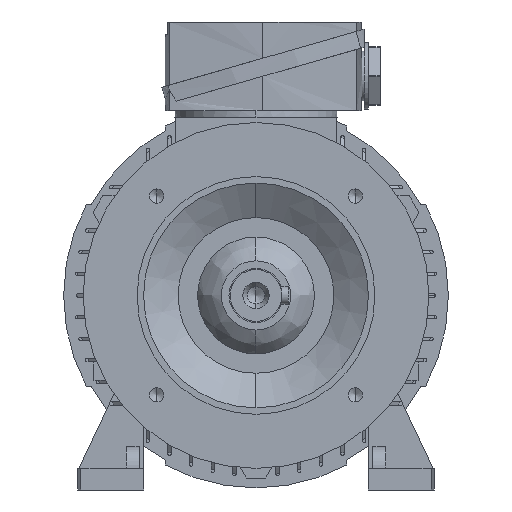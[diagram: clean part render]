
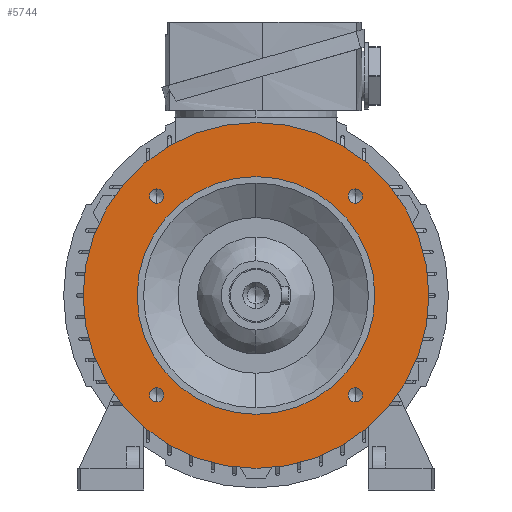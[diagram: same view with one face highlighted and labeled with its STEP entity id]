
A CAD part, left-side view. The second image highlights one B-rep face of the part: STEP entity #5744.
In plain terms, the highlighted planar face has unit normal (-1, 0, 0).
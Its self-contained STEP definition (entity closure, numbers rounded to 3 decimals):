
#158 = EDGE_CURVE ( 'NONE', #4018, #12202, #525, .T. ) ;
#299 = CARTESIAN_POINT ( 'NONE',  ( -34.5, 0., 0. ) ) ;
#416 = CIRCLE ( 'NONE', #17458, 55. ) ;
#525 = CIRCLE ( 'NONE', #16026, 3.325 ) ;
#851 = CIRCLE ( 'NONE', #1062, 3.325 ) ;
#1062 = AXIS2_PLACEMENT_3D ( 'NONE', #4175, #17286, #6038 ) ;
#1452 = EDGE_LOOP ( 'NONE', ( #12069, #17181 ) ) ;
#1572 = CIRCLE ( 'NONE', #10419, 3.325 ) ;
#1756 = CIRCLE ( 'NONE', #6596, 3.325 ) ;
#1910 = EDGE_CURVE ( 'NONE', #5872, #19605, #21141, .T. ) ;
#2111 = CIRCLE ( 'NONE', #23293, 3.325 ) ;
#2133 = EDGE_CURVE ( 'NONE', #21278, #4658, #20066, .T. ) ;
#2252 = DIRECTION ( 'NONE',  ( 0., 0., 1. ) ) ;
#2617 = DIRECTION ( 'NONE',  ( -1., 0., 0. ) ) ;
#2779 = CIRCLE ( 'NONE', #20328, 80. ) ;
#3041 = CARTESIAN_POINT ( 'NONE',  ( -34.5, 45.962, -49.287 ) ) ;
#3049 = AXIS2_PLACEMENT_3D ( 'NONE', #9927, #4441, #8315 ) ;
#3378 = DIRECTION ( 'NONE',  ( 0., 0., 1. ) ) ;
#3385 = DIRECTION ( 'NONE',  ( 1., 0., 0. ) ) ;
#3406 = CARTESIAN_POINT ( 'NONE',  ( -34.5, 0., 0. ) ) ;
#3415 = EDGE_CURVE ( 'NONE', #8403, #13413, #14691, .T. ) ;
#3504 = CARTESIAN_POINT ( 'NONE',  ( -34.5, 0., 80. ) ) ;
#3882 = ORIENTED_EDGE ( 'NONE', *, *, #22216, .T. ) ;
#3954 = FACE_BOUND ( 'NONE', #4211, .T. ) ;
#3956 = FACE_BOUND ( 'NONE', #12075, .T. ) ;
#3975 = FACE_BOUND ( 'NONE', #21677, .T. ) ;
#4018 = VERTEX_POINT ( 'NONE', #13525 ) ;
#4019 = FACE_OUTER_BOUND ( 'NONE', #11516, .T. ) ;
#4071 = FACE_BOUND ( 'NONE', #10507, .T. ) ;
#4135 = EDGE_CURVE ( 'NONE', #14442, #12062, #11276, .T. ) ;
#4175 = CARTESIAN_POINT ( 'NONE',  ( -34.5, 45.962, 45.962 ) ) ;
#4211 = EDGE_LOOP ( 'NONE', ( #11950, #9720 ) ) ;
#4228 = FACE_BOUND ( 'NONE', #1452, .T. ) ;
#4441 = DIRECTION ( 'NONE',  ( 1., 0., 0. ) ) ;
#4658 = VERTEX_POINT ( 'NONE', #9594 ) ;
#4736 = CARTESIAN_POINT ( 'NONE',  ( -34.5, 0., 0. ) ) ;
#5238 = CARTESIAN_POINT ( 'NONE',  ( -34.5, -45.962, -45.962 ) ) ;
#5744 = ADVANCED_FACE ( 'NONE', ( #4228, #4019, #4071, #3956, #3975, #3954 ), #23078, .T. ) ;
#5872 = VERTEX_POINT ( 'NONE', #19883 ) ;
#6038 = DIRECTION ( 'NONE',  ( 0., 0., -1. ) ) ;
#6048 = EDGE_CURVE ( 'NONE', #19058, #21212, #2779, .T. ) ;
#6163 = DIRECTION ( 'NONE',  ( 1., 0., 0. ) ) ;
#6596 = AXIS2_PLACEMENT_3D ( 'NONE', #5238, #18327, #7119 ) ;
#6605 = DIRECTION ( 'NONE',  ( 0., 0., 1. ) ) ;
#7119 = DIRECTION ( 'NONE',  ( 0., 0., -1. ) ) ;
#7222 = DIRECTION ( 'NONE',  ( 0., 0., -1. ) ) ;
#8315 = DIRECTION ( 'NONE',  ( 0., 0., -1. ) ) ;
#8392 = AXIS2_PLACEMENT_3D ( 'NONE', #20976, #20996, #21055 ) ;
#8403 = VERTEX_POINT ( 'NONE', #19523 ) ;
#8622 = ORIENTED_EDGE ( 'NONE', *, *, #6048, .F. ) ;
#9594 = CARTESIAN_POINT ( 'NONE',  ( -34.5, -45.962, -49.287 ) ) ;
#9720 = ORIENTED_EDGE ( 'NONE', *, *, #158, .T. ) ;
#9927 = CARTESIAN_POINT ( 'NONE',  ( -34.5, 45.962, 45.962 ) ) ;
#10374 = DIRECTION ( 'NONE',  ( 1., 0., 0. ) ) ;
#10419 = AXIS2_PLACEMENT_3D ( 'NONE', #22155, #11021, #23984 ) ;
#10507 = EDGE_LOOP ( 'NONE', ( #23924, #18523 ) ) ;
#11021 = DIRECTION ( 'NONE',  ( 1., 0., 0. ) ) ;
#11269 = AXIS2_PLACEMENT_3D ( 'NONE', #17409, #6163, #19265 ) ;
#11276 = CIRCLE ( 'NONE', #3049, 3.325 ) ;
#11373 = ORIENTED_EDGE ( 'NONE', *, *, #2133, .T. ) ;
#11516 = EDGE_LOOP ( 'NONE', ( #17825, #8622 ) ) ;
#11685 = AXIS2_PLACEMENT_3D ( 'NONE', #3406, #3385, #3378 ) ;
#11936 = CARTESIAN_POINT ( 'NONE',  ( -34.5, -45.962, -45.962 ) ) ;
#11950 = ORIENTED_EDGE ( 'NONE', *, *, #22081, .T. ) ;
#12007 = CARTESIAN_POINT ( 'NONE',  ( -34.5, 0., 67.5 ) ) ;
#12062 = VERTEX_POINT ( 'NONE', #23230 ) ;
#12069 = ORIENTED_EDGE ( 'NONE', *, *, #22582, .T. ) ;
#12075 = EDGE_LOOP ( 'NONE', ( #18564, #16646 ) ) ;
#12202 = VERTEX_POINT ( 'NONE', #23548 ) ;
#13413 = VERTEX_POINT ( 'NONE', #18175 ) ;
#13525 = CARTESIAN_POINT ( 'NONE',  ( -34.5, -45.962, 49.287 ) ) ;
#13559 = DIRECTION ( 'NONE',  ( 1., 0., 0. ) ) ;
#13918 = DIRECTION ( 'NONE',  ( 1., 0., 0. ) ) ;
#14052 = CARTESIAN_POINT ( 'NONE',  ( -34.5, -45.962, 45.962 ) ) ;
#14170 = DIRECTION ( 'NONE',  ( 0., 0., -1. ) ) ;
#14442 = VERTEX_POINT ( 'NONE', #20584 ) ;
#14691 = CIRCLE ( 'NONE', #11685, 55. ) ;
#15804 = DIRECTION ( 'NONE',  ( 0., 0., 1. ) ) ;
#16026 = AXIS2_PLACEMENT_3D ( 'NONE', #14052, #13918, #14170 ) ;
#16536 = EDGE_CURVE ( 'NONE', #21212, #19058, #21824, .T. ) ;
#16646 = ORIENTED_EDGE ( 'NONE', *, *, #1910, .T. ) ;
#17181 = ORIENTED_EDGE ( 'NONE', *, *, #3415, .T. ) ;
#17286 = DIRECTION ( 'NONE',  ( 1., 0., 0. ) ) ;
#17409 = CARTESIAN_POINT ( 'NONE',  ( -34.5, 0., 0. ) ) ;
#17458 = AXIS2_PLACEMENT_3D ( 'NONE', #4736, #17821, #6605 ) ;
#17641 = CARTESIAN_POINT ( 'NONE',  ( -34.5, 0., -80. ) ) ;
#17821 = DIRECTION ( 'NONE',  ( 1., 0., 0. ) ) ;
#17825 = ORIENTED_EDGE ( 'NONE', *, *, #16536, .F. ) ;
#18021 = DIRECTION ( 'NONE',  ( 1., 0., 0. ) ) ;
#18175 = CARTESIAN_POINT ( 'NONE',  ( -34.5, 0., 55. ) ) ;
#18260 = AXIS2_PLACEMENT_3D ( 'NONE', #12007, #2617, #15804 ) ;
#18327 = DIRECTION ( 'NONE',  ( 1., 0., 0. ) ) ;
#18523 = ORIENTED_EDGE ( 'NONE', *, *, #4135, .T. ) ;
#18564 = ORIENTED_EDGE ( 'NONE', *, *, #22252, .T. ) ;
#18630 = CARTESIAN_POINT ( 'NONE',  ( -34.5, -45.962, -42.637 ) ) ;
#19058 = VERTEX_POINT ( 'NONE', #17641 ) ;
#19265 = DIRECTION ( 'NONE',  ( 0., 0., 1. ) ) ;
#19523 = CARTESIAN_POINT ( 'NONE',  ( -34.5, 0., -55. ) ) ;
#19605 = VERTEX_POINT ( 'NONE', #3041 ) ;
#19883 = CARTESIAN_POINT ( 'NONE',  ( -34.5, 45.962, -42.637 ) ) ;
#20066 = CIRCLE ( 'NONE', #22163, 3.325 ) ;
#20328 = AXIS2_PLACEMENT_3D ( 'NONE', #299, #13559, #2252 ) ;
#20584 = CARTESIAN_POINT ( 'NONE',  ( -34.5, 45.962, 49.287 ) ) ;
#20976 = CARTESIAN_POINT ( 'NONE',  ( -34.5, 45.962, -45.962 ) ) ;
#20996 = DIRECTION ( 'NONE',  ( 1., 0., 0. ) ) ;
#21055 = DIRECTION ( 'NONE',  ( 0., 0., -1. ) ) ;
#21141 = CIRCLE ( 'NONE', #8392, 3.325 ) ;
#21212 = VERTEX_POINT ( 'NONE', #3504 ) ;
#21278 = VERTEX_POINT ( 'NONE', #18630 ) ;
#21525 = CARTESIAN_POINT ( 'NONE',  ( -34.5, -45.962, 45.962 ) ) ;
#21677 = EDGE_LOOP ( 'NONE', ( #3882, #11373 ) ) ;
#21824 = CIRCLE ( 'NONE', #11269, 80. ) ;
#22081 = EDGE_CURVE ( 'NONE', #12202, #4018, #2111, .T. ) ;
#22155 = CARTESIAN_POINT ( 'NONE',  ( -34.5, 45.962, -45.962 ) ) ;
#22163 = AXIS2_PLACEMENT_3D ( 'NONE', #11936, #18021, #7222 ) ;
#22216 = EDGE_CURVE ( 'NONE', #4658, #21278, #1756, .T. ) ;
#22252 = EDGE_CURVE ( 'NONE', #19605, #5872, #1572, .T. ) ;
#22440 = EDGE_CURVE ( 'NONE', #12062, #14442, #851, .T. ) ;
#22582 = EDGE_CURVE ( 'NONE', #13413, #8403, #416, .T. ) ;
#23078 = PLANE ( 'NONE',  #18260 ) ;
#23230 = CARTESIAN_POINT ( 'NONE',  ( -34.5, 45.962, 42.637 ) ) ;
#23293 = AXIS2_PLACEMENT_3D ( 'NONE', #21525, #10374, #23328 ) ;
#23328 = DIRECTION ( 'NONE',  ( 0., 0., -1. ) ) ;
#23548 = CARTESIAN_POINT ( 'NONE',  ( -34.5, -45.962, 42.637 ) ) ;
#23924 = ORIENTED_EDGE ( 'NONE', *, *, #22440, .T. ) ;
#23984 = DIRECTION ( 'NONE',  ( 0., 0., -1. ) ) ;
